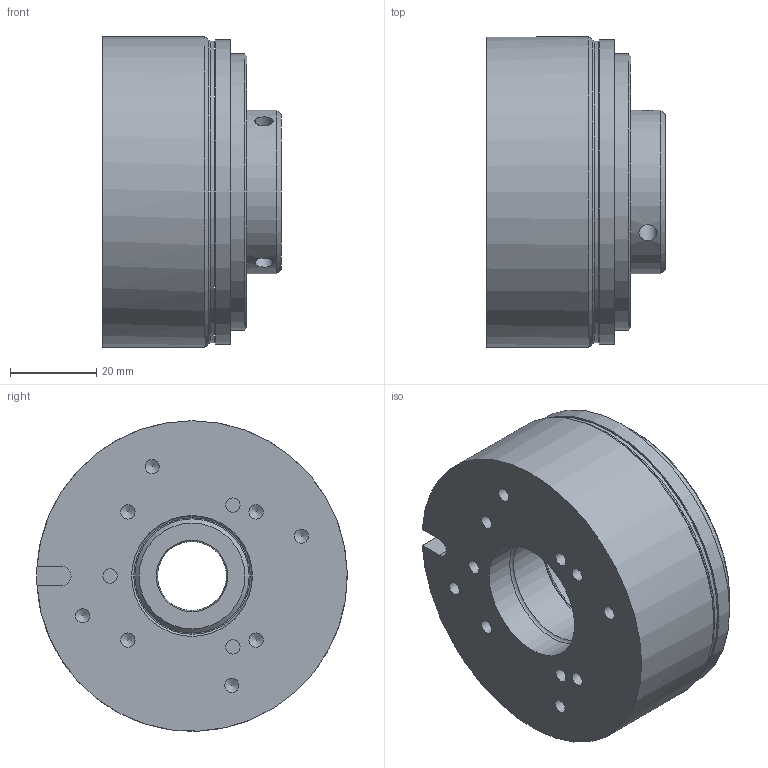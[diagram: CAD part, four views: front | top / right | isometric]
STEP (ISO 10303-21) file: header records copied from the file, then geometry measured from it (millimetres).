
FILE_DESCRIPTION (( 'STEP AP203' ), '1' );
FILE_NAME ('86_61107K00-0013_Idx_g.STEP', '2022-02-15T13:48:06', ( '' ), ( '' ), 'SwSTEP 2.0', 'SolidWorks 2018', '' );
FILE_SCHEMA (( 'CONFIG_CONTROL_DESIGN' ));
Length unit declared in the file: millimetre
Products named in the file (1): 86_61107K00-0013_Idx_g
Bounding box: 41.4 x 72 x 72 mm (x, y, z)
Volume: 118323.3 mm3; surface area: 27056.3 mm2
Topology: 2 solids, 2 shells, 58 faces, 120 edges, 73 vertices
Faces by surface type: cylinder 26, cone 15, plane 14, torus 3
Full cylindrical faces by diameter (mm): 3.3 x11, 4.2 x3, 16 x1, 26.5 x1, 27 x1, 28 x1, 29.5 x1, 38 x1, 55.5 x1, 64 x1, 70 x1, 70.5 x1, 72 x1
Entity records: 1647 total; most frequent: CARTESIAN_POINT 521, DIRECTION 234, ORIENTED_EDGE 136, EDGE_LOOP 118, AXIS2_PLACEMENT_3D 113, FACE_OUTER_BOUND 86, EDGE_CURVE 68, VERTEX_POINT 64
